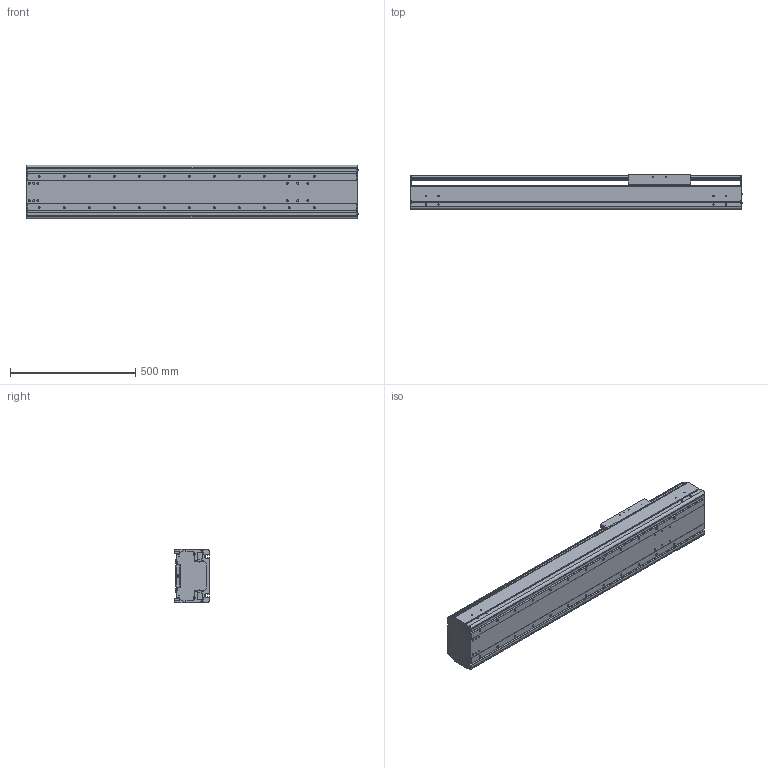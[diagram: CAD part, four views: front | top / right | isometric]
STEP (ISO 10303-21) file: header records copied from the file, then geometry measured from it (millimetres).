
FILE_DESCRIPTION((''),'2;1');
FILE_NAME('BE60J-ST-M_B-80_IGS_PRT','2017-06-18T',(' '),(''),'PRO/ENGINEER BY PARAMETRIC TECHNOLOGY CORPORATION, 2015030','PRO/ENGINEER BY PARAMETRIC TECHNOLOGY CORPORATION, 2015030','');
FILE_SCHEMA(('CONFIG_CONTROL_DESIGN'));
Length unit declared in the file: millimetre
Products named in the file (1): BE60J-ST-M_B-80_IGS_PRT
Bounding box: 1327.4 x 140 x 214 mm (x, y, z)
Volume: 10542852.8 mm3; surface area: 2811315.1 mm2
Topology: 2 solids, 28 shells, 1091 faces, 2896 edges, 1865 vertices
Faces by surface type: plane 521, cylinder 470, cone 52, torus 24, sphere 24
Entity records: 34215 total; most frequent: CARTESIAN_POINT 6384, DIRECTION 5952, ORIENTED_EDGE 5596, EDGE_CURVE 2846, AXIS2_PLACEMENT_3D 2124, VERTEX_POINT 1864, VECTOR 1704, LINE 1704
